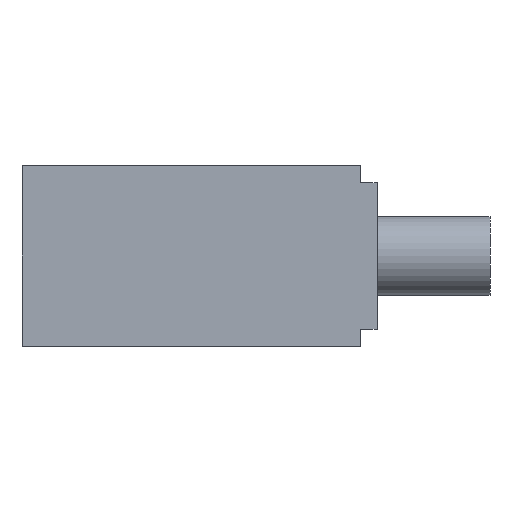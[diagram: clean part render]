
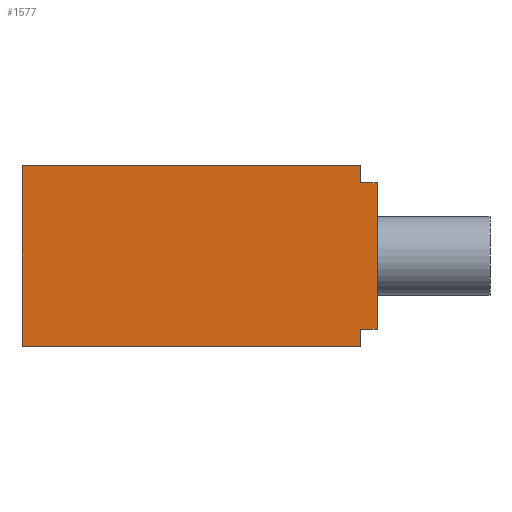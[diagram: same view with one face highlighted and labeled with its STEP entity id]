
A CAD part, front view. The second image highlights one B-rep face of the part: STEP entity #1577.
In plain terms, the highlighted planar face has unit normal (0, -1, 0) as drawn and (0, 0, -1) by its records, which use the part's own axes.
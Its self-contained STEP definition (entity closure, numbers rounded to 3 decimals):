
#48=LINE('',#2487,#150);
#52=LINE('',#2498,#154);
#60=LINE('',#2513,#162);
#92=LINE('',#2616,#194);
#108=LINE('',#2661,#210);
#124=LINE('',#2694,#226);
#127=LINE('',#2699,#229);
#128=LINE('',#2701,#230);
#150=VECTOR('',#2027,13.);
#154=VECTOR('',#2035,1.5);
#162=VECTOR('',#2043,1.5);
#194=VECTOR('',#2147,30.);
#210=VECTOR('',#2191,16.);
#226=VECTOR('',#2229,30.);
#229=VECTOR('',#2236,1.5);
#230=VECTOR('',#2239,1.5);
#284=PLANE('',#1765);
#460=FACE_OUTER_BOUND('',#596,.T.);
#596=EDGE_LOOP('',(#1405,#1406,#1407,#1408,#1409,#1410,#1411,#1412));
#757=VERTEX_POINT('',#2484);
#758=VERTEX_POINT('',#2486);
#760=VERTEX_POINT('',#2491);
#762=VERTEX_POINT('',#2495);
#763=VERTEX_POINT('',#2497);
#770=VERTEX_POINT('',#2511);
#805=VERTEX_POINT('',#2614);
#820=VERTEX_POINT('',#2659);
#918=EDGE_CURVE('',#758,#757,#48,.T.);
#923=EDGE_CURVE('',#763,#762,#52,.T.);
#931=EDGE_CURVE('',#760,#770,#60,.T.);
#980=EDGE_CURVE('',#770,#805,#92,.T.);
#1002=EDGE_CURVE('',#820,#805,#108,.T.);
#1019=EDGE_CURVE('',#820,#763,#124,.T.);
#1022=EDGE_CURVE('',#762,#758,#127,.T.);
#1023=EDGE_CURVE('',#760,#757,#128,.T.);
#1405=ORIENTED_EDGE('',*,*,#918,.T.);
#1406=ORIENTED_EDGE('',*,*,#1023,.F.);
#1407=ORIENTED_EDGE('',*,*,#931,.T.);
#1408=ORIENTED_EDGE('',*,*,#980,.T.);
#1409=ORIENTED_EDGE('',*,*,#1002,.F.);
#1410=ORIENTED_EDGE('',*,*,#1019,.T.);
#1411=ORIENTED_EDGE('',*,*,#923,.T.);
#1412=ORIENTED_EDGE('',*,*,#1022,.T.);
#1577=ADVANCED_FACE('',(#460),#284,.T.);
#1765=AXIS2_PLACEMENT_3D('',#2700,#2237,#2238);
#2027=DIRECTION('',(0.,-1.,0.));
#2035=DIRECTION('',(0.,-1.,0.));
#2043=DIRECTION('',(0.,-1.,0.));
#2147=DIRECTION('',(-1.,0.,0.));
#2191=DIRECTION('',(0.,-1.,0.));
#2229=DIRECTION('',(1.,0.,0.));
#2236=DIRECTION('',(1.,0.,0.));
#2237=DIRECTION('center_axis',(0.,0.,-1.));
#2238=DIRECTION('ref_axis',(-1.,0.,0.));
#2239=DIRECTION('',(1.,0.,0.));
#2484=CARTESIAN_POINT('',(16.5,-14.5,-40.));
#2486=CARTESIAN_POINT('',(16.5,-1.5,-40.));
#2487=CARTESIAN_POINT('',(16.5,-1.5,-40.));
#2491=CARTESIAN_POINT('',(15.,-14.5,-40.));
#2495=CARTESIAN_POINT('',(15.,-1.5,-40.));
#2497=CARTESIAN_POINT('',(15.,0.,-40.));
#2498=CARTESIAN_POINT('',(15.,0.,-40.));
#2511=CARTESIAN_POINT('',(15.,-16.,-40.));
#2513=CARTESIAN_POINT('',(15.,-14.5,-40.));
#2614=CARTESIAN_POINT('',(-15.,-16.,-40.));
#2616=CARTESIAN_POINT('',(15.,-16.,-40.));
#2659=CARTESIAN_POINT('',(-15.,0.,-40.));
#2661=CARTESIAN_POINT('',(-15.,0.,-40.));
#2694=CARTESIAN_POINT('',(-15.,0.,-40.));
#2699=CARTESIAN_POINT('',(15.,-1.5,-40.));
#2700=CARTESIAN_POINT('Origin',(15.,-1.5,-40.));
#2701=CARTESIAN_POINT('',(15.,-14.5,-40.));
